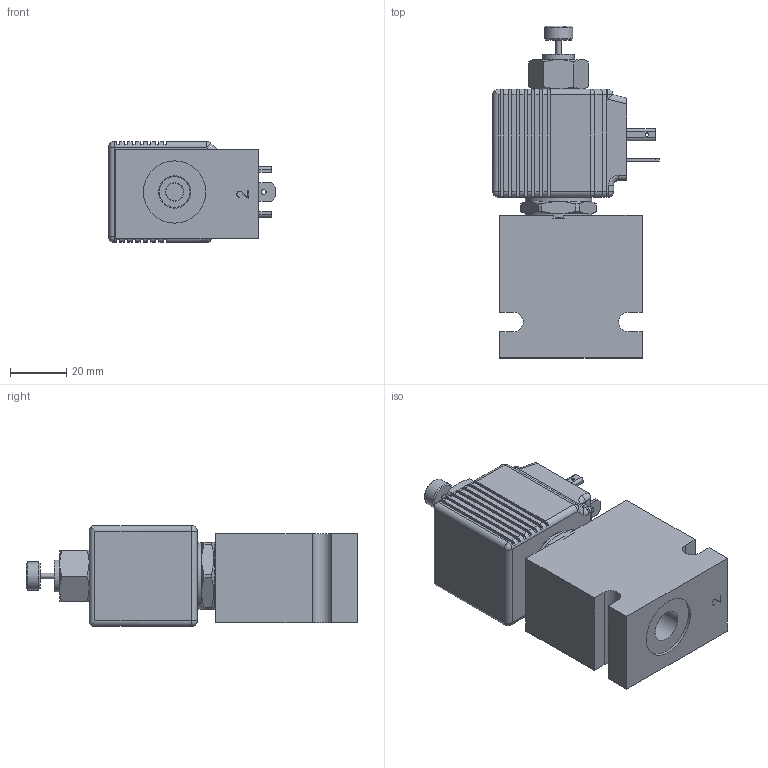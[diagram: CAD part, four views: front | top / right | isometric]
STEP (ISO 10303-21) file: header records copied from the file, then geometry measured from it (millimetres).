
FILE_DESCRIPTION( ( 'Unknown' ), '1' );
FILE_NAME( 'G:/Graphic Design/Graphic Design 2/Data Sheets/SOLENOID OPERATED VALVES/4_STEP/2W2P Normally Closed/T-PBS2I0MA2.stp', 'Unknown', ( 'Unknown' ), ( 'Unknown' ), 'PSStep 16.0.42', 'Unknown', ' ' );
FILE_SCHEMA( ( 'AUTOMOTIVE_DESIGN { 1 0 10303 214 1 1 1 1 }' ) );
Length unit declared in the file: millimetre
Products named in the file (7): T-PB-TS2I-0M; 13.0301.254 A - pb-ts2i mo; PB-Nose tecnord; T-pbs2inut; Assem1; B-DPBA2; T-JHC26
Assembly tree (6 placements, depth 3):
  Assem1
    B-DPBA2
    T-JHC26
    T-PB-TS2I-0M
      13.0301.254 A - pb-ts2i mo
      PB-Nose tecnord
      T-pbs2inut
Bounding box: 59.4 x 118.3 x 36 mm (x, y, z)
Surface area: 35230 mm2 (no closed solid volume)
Topology: 0 solids, 564 shells, 564 faces, 2828 edges, 2714 vertices
Faces by surface type: plane 391, cylinder 99, cone 36, torus 24, sphere 8, bspline 6
Full cylindrical faces by diameter (mm): 0.2 x2, 1.245 x2, 1.5 x1, 1.666 x1, 1.9 x1, 3.4 x4, 6.31 x1, 8.402 x1, 9 x1, 9.88 x1, 10 x1, 10.9 x1, 11 x2, 11.3 x1, 11.4 x1, 11.5 x4, 12.63 x3, 12.7 x3, 12.8 x2, 13 x2, 13.2 x1, 13.3 x1, 13.5 x1, 14.6 x2, 16 x1, 16.8 x1, 17 x2, 17.33 x2, 18.85 x1, 22.22 x2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
Entity records: 36326 total; most frequent: CARTESIAN_POINT 13014, DIRECTION 3368, VERTEX_POINT 2682, ORIENTED_EDGE 2680, EDGE_CURVE 2680, AXIS2_PLACEMENT_3D 1140, LINE 1088, VECTOR 1088
